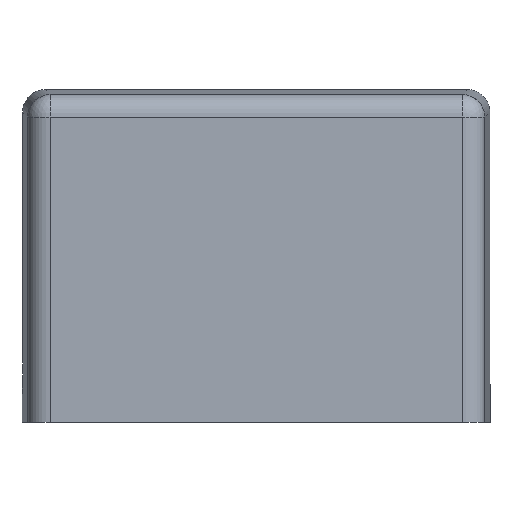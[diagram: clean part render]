
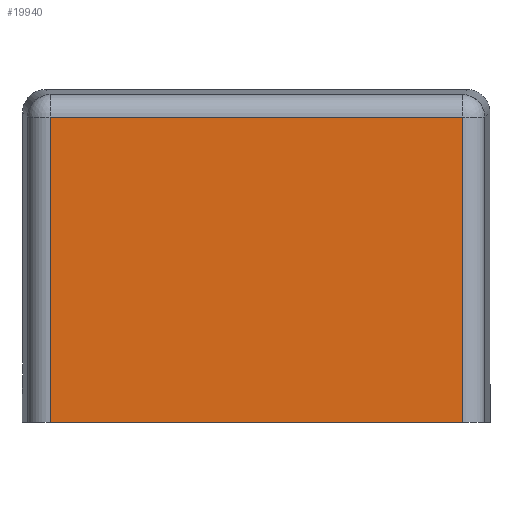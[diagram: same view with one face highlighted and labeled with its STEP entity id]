
A CAD part, front view. The second image highlights one B-rep face of the part: STEP entity #19940.
In plain terms, the highlighted planar face has unit normal (0, -1, 0).
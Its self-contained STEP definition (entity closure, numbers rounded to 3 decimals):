
#1468=LINE('',#41444,#3276);
#1469=LINE('',#41450,#3277);
#1510=LINE('',#41570,#3318);
#1511=LINE('',#41572,#3319);
#3276=VECTOR('',#33747,1000.);
#3277=VECTOR('',#33756,1000.);
#3318=VECTOR('',#33867,1000.);
#3319=VECTOR('',#33870,1000.);
#4280=PLANE('',#29421);
#8045=ORIENTED_EDGE('',*,*,#12231,.F.);
#8046=ORIENTED_EDGE('',*,*,#12295,.F.);
#8047=ORIENTED_EDGE('',*,*,#12296,.T.);
#8048=ORIENTED_EDGE('',*,*,#12234,.F.);
#12231=EDGE_CURVE('',#14517,#14516,#1468,.T.);
#12234=EDGE_CURVE('',#14516,#14518,#1469,.T.);
#12295=EDGE_CURVE('',#14562,#14517,#1510,.T.);
#12296=EDGE_CURVE('',#14562,#14518,#1511,.T.);
#14516=VERTEX_POINT('',#41441);
#14517=VERTEX_POINT('',#41443);
#14518=VERTEX_POINT('',#41449);
#14562=VERTEX_POINT('',#41569);
#16822=EDGE_LOOP('',(#8045,#8046,#8047,#8048));
#18244=FACE_BOUND('',#16822,.T.);
#19940=ADVANCED_FACE('',(#18244),#4280,.T.);
#29421=AXIS2_PLACEMENT_3D('',#41571,#33868,#33869);
#33747=DIRECTION('',(0.,0.,1.));
#33756=DIRECTION('',(1.,0.,0.));
#33867=DIRECTION('',(-1.,0.,0.));
#33868=DIRECTION('',(0.,-1.,0.));
#33869=DIRECTION('',(-1.,0.,0.));
#33870=DIRECTION('',(0.,0.,1.));
#41441=CARTESIAN_POINT('',(-29.467,-0.236,16.834));
#41443=CARTESIAN_POINT('',(-29.467,-0.236,-3.5));
#41444=CARTESIAN_POINT('',(-29.467,-0.236,-3.5));
#41449=CARTESIAN_POINT('',(-1.999,-0.236,16.834));
#41450=CARTESIAN_POINT('',(-29.467,-0.236,16.834));
#41569=CARTESIAN_POINT('',(-1.999,-0.236,-3.5));
#41570=CARTESIAN_POINT('',(-1.999,-0.236,-3.5));
#41571=CARTESIAN_POINT('',(-0.333,-0.236,18.5));
#41572=CARTESIAN_POINT('',(-1.999,-0.236,-3.5));
